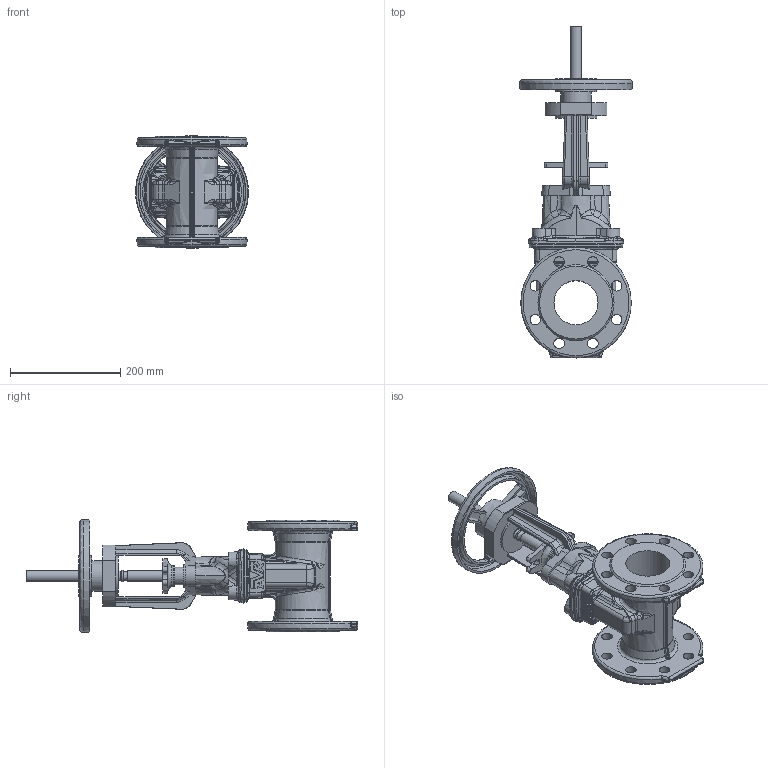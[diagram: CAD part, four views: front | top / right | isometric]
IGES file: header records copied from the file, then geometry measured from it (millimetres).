
Start section: SolidWorks IGES file using analytic representation for surfaces
Global section: file name: \\avksan2\techshare\PBM outline export from Enovia\O_21_34_DN080_41XXXXX open_AA0.igs; native system: SolidWorks 2012; preprocessor: SolidWorks 2012; author: pbm; date: 200212.100309; units: millimetre
Bounding box: 204.26 x 601.87 x 204.26 mm (x, y, z)
Surface area: 478298.8 mm2 (no closed solid volume)
Topology: 0 solids, 0 shells, 911 faces, 4672 edges, 4562 vertices
Faces by surface type: bspline 507, revolution 404
